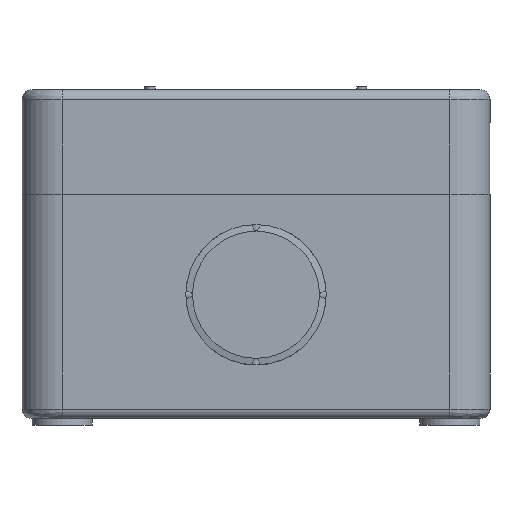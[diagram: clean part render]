
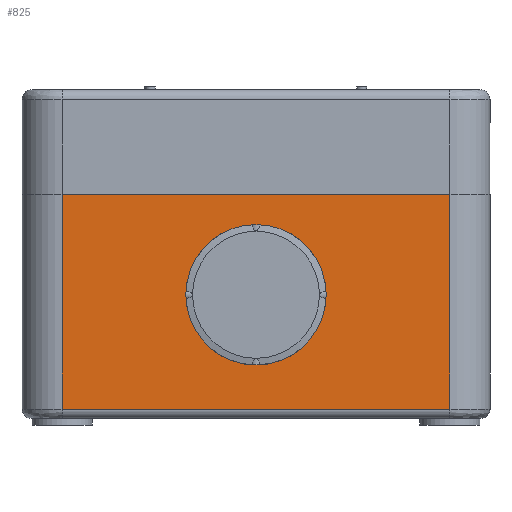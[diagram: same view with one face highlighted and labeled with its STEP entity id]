
A CAD part, front view. The second image highlights one B-rep face of the part: STEP entity #825.
In plain terms, the highlighted planar face has unit normal (0, -1, 0).
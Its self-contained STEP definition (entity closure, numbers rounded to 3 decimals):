
#70 = LINE ( 'NONE', #3168, #1570 ) ;
#112 = VERTEX_POINT ( 'NONE', #6885 ) ;
#130 = PLANE ( 'NONE',  #7060 ) ;
#390 = DIRECTION ( 'NONE',  ( 0., 0., 1. ) ) ;
#408 = CARTESIAN_POINT ( 'NONE',  ( 0., 0., -10.25 ) ) ;
#703 = DIRECTION ( 'NONE',  ( 0., -1., 0. ) ) ;
#727 = ORIENTED_EDGE ( 'NONE', *, *, #7316, .F. ) ;
#825 = ADVANCED_FACE ( 'NONE', ( #7062, #1579 ), #130, .T. ) ;
#875 = LINE ( 'NONE', #3688, #6697 ) ;
#940 = ORIENTED_EDGE ( 'NONE', *, *, #2004, .T. ) ;
#1570 = VECTOR ( 'NONE', #7124, 1000. ) ;
#1579 = FACE_OUTER_BOUND ( 'NONE', #7212, .T. ) ;
#1758 = CIRCLE ( 'NONE', #4434, 10.5 ) ;
#1969 = VERTEX_POINT ( 'NONE', #4796 ) ;
#2004 = EDGE_CURVE ( 'NONE', #6368, #2034, #1758, .T. ) ;
#2034 = VERTEX_POINT ( 'NONE', #408 ) ;
#2270 = LINE ( 'NONE', #5374, #4743 ) ;
#2285 = EDGE_LOOP ( 'NONE', ( #940, #7253 ) ) ;
#2751 = CARTESIAN_POINT ( 'NONE',  ( 0., 0., 0.25 ) ) ;
#2887 = VERTEX_POINT ( 'NONE', #5438 ) ;
#2954 = ORIENTED_EDGE ( 'NONE', *, *, #3149, .T. ) ;
#3057 = CIRCLE ( 'NONE', #6622, 10.5 ) ;
#3121 = DIRECTION ( 'NONE',  ( 0., 0., -1. ) ) ;
#3149 = EDGE_CURVE ( 'NONE', #2887, #112, #875, .T. ) ;
#3168 = CARTESIAN_POINT ( 'NONE',  ( 35., 0., 15.25 ) ) ;
#3304 = DIRECTION ( 'NONE',  ( 0., 0., 1. ) ) ;
#3601 = LINE ( 'NONE', #4432, #6037 ) ;
#3688 = CARTESIAN_POINT ( 'NONE',  ( -29., 0., -18.25 ) ) ;
#3757 = DIRECTION ( 'NONE',  ( 0., 1., 0. ) ) ;
#4067 = CARTESIAN_POINT ( 'NONE',  ( 35., 0., -18.25 ) ) ;
#4432 = CARTESIAN_POINT ( 'NONE',  ( 17.5, 0., -16.85 ) ) ;
#4434 = AXIS2_PLACEMENT_3D ( 'NONE', #7151, #3757, #390 ) ;
#4491 = ORIENTED_EDGE ( 'NONE', *, *, #6854, .T. ) ;
#4633 = DIRECTION ( 'NONE',  ( 0., 0., -1. ) ) ;
#4652 = EDGE_CURVE ( 'NONE', #2034, #6368, #3057, .T. ) ;
#4743 = VECTOR ( 'NONE', #3121, 1000. ) ;
#4783 = VERTEX_POINT ( 'NONE', #5676 ) ;
#4796 = CARTESIAN_POINT ( 'NONE',  ( 29., 0., 15.25 ) ) ;
#5374 = CARTESIAN_POINT ( 'NONE',  ( 29., 0., -18.25 ) ) ;
#5438 = CARTESIAN_POINT ( 'NONE',  ( -29., 0., 15.25 ) ) ;
#5676 = CARTESIAN_POINT ( 'NONE',  ( 29., 0., -16.85 ) ) ;
#5890 = DIRECTION ( 'NONE',  ( 0., 0., -1. ) ) ;
#6037 = VECTOR ( 'NONE', #6103, 1000. ) ;
#6079 = ORIENTED_EDGE ( 'NONE', *, *, #6813, .F. ) ;
#6103 = DIRECTION ( 'NONE',  ( -1., 0., 0. ) ) ;
#6368 = VERTEX_POINT ( 'NONE', #6460 ) ;
#6460 = CARTESIAN_POINT ( 'NONE',  ( 0., 0., 10.75 ) ) ;
#6622 = AXIS2_PLACEMENT_3D ( 'NONE', #2751, #6710, #3304 ) ;
#6697 = VECTOR ( 'NONE', #5890, 1000. ) ;
#6710 = DIRECTION ( 'NONE',  ( 0., 1., 0. ) ) ;
#6813 = EDGE_CURVE ( 'NONE', #1969, #4783, #2270, .T. ) ;
#6854 = EDGE_CURVE ( 'NONE', #1969, #2887, #70, .T. ) ;
#6885 = CARTESIAN_POINT ( 'NONE',  ( -29., 0., -16.85 ) ) ;
#7060 = AXIS2_PLACEMENT_3D ( 'NONE', #4067, #703, #4633 ) ;
#7062 = FACE_BOUND ( 'NONE', #2285, .T. ) ;
#7124 = DIRECTION ( 'NONE',  ( -1., 0., 0. ) ) ;
#7151 = CARTESIAN_POINT ( 'NONE',  ( 0., 0., 0.25 ) ) ;
#7212 = EDGE_LOOP ( 'NONE', ( #4491, #2954, #727, #6079 ) ) ;
#7253 = ORIENTED_EDGE ( 'NONE', *, *, #4652, .T. ) ;
#7316 = EDGE_CURVE ( 'NONE', #4783, #112, #3601, .T. ) ;
